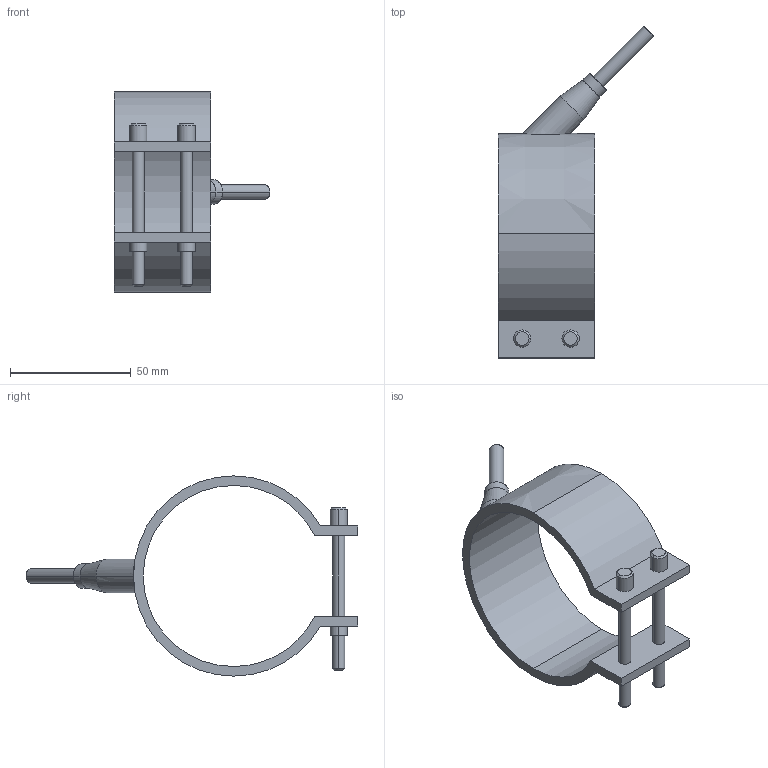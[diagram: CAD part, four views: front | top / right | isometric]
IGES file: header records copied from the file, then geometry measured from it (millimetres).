
Start section: START RECORD GO HERE.
Global section: file name: 29075040.igs; native system: DASSAULT SYSTEMES CATIA V5 R20 - www.3ds.com; preprocessor: CATIA Version 5 Release 20 ; author: Utente; organization: NB04-ASUS; date: 20210329.201447; units: millimetre
Bounding box: 64.55 x 137.55 x 83 mm (x, y, z)
Surface area: 25231.8 mm2 (no closed solid volume)
Topology: 0 solids, 0 shells, 54 faces, 250 edges, 250 vertices
Faces by surface type: revolution 38, plane 16
